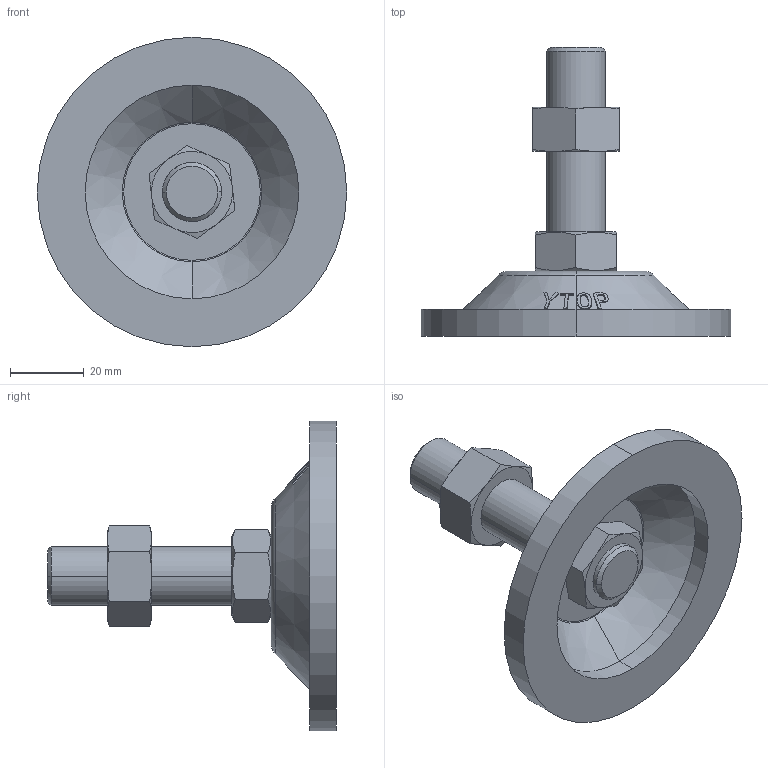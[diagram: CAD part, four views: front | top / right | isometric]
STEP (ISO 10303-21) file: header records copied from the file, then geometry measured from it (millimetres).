
FILE_DESCRIPTION (( 'STEP AP203' ), '1' );
FILE_NAME ('P-84-1650-BR.STEP', '2020-09-10T08:58:03', ( '' ), ( '' ), 'SwSTEP 2.0', 'SolidWorks 2016', '' );
FILE_SCHEMA (( 'CONFIG_CONTROL_DESIGN' ));
Length unit declared in the file: millimetre
Products named in the file (5): 脚垫调节六角螺母M16; 脚垫锁紧六角薄螺母M16; 傲郈蹟裝M16炵蹈_M16X50; P-84-1650-BR; P-84-1菁釱-3P
Assembly tree (4 placements, depth 2):
  P-84-1650-BR
    P-84-1菁釱-3P
    傲郈蹟裝M16炵蹈_M16X50
    脚垫锁紧六角薄螺母M16
    脚垫调节六角螺母M16
Bounding box: 84 x 78.4 x 84 mm (x, y, z)
Volume: 53116.8 mm3; surface area: 32351.8 mm2
Topology: 5 solids, 5 shells, 158 faces, 360 edges, 224 vertices
Faces by surface type: cone 56, bspline 38, plane 34, cylinder 20, torus 10
Entity records: 8917 total; most frequent: CARTESIAN_POINT 5213, ORIENTED_EDGE 720, DIRECTION 546, EDGE_CURVE 360, AXIS2_PLACEMENT_3D 241, VERTEX_POINT 224, B_SPLINE_CURVE_WITH_KNOTS 182, EDGE_LOOP 178
